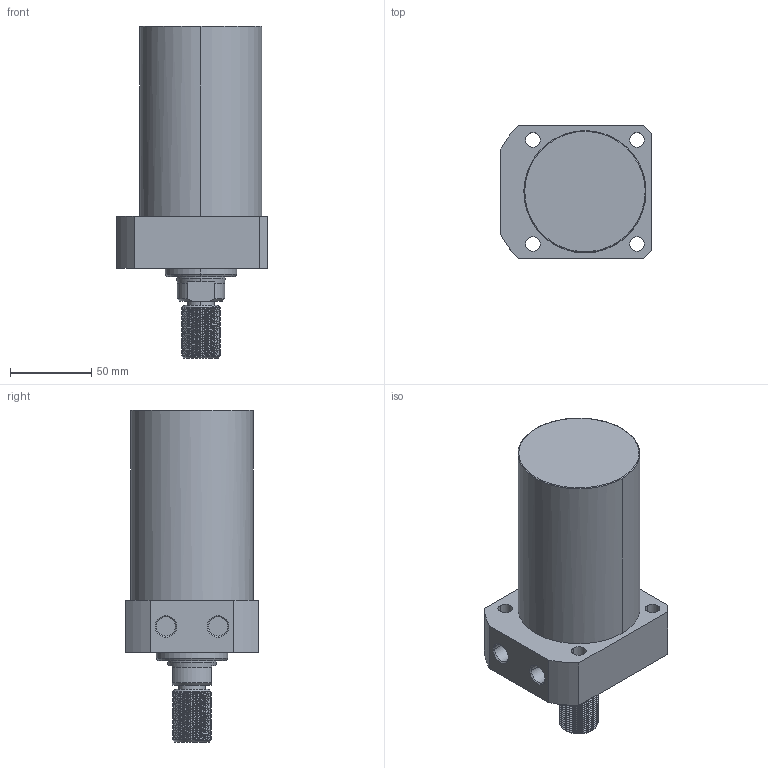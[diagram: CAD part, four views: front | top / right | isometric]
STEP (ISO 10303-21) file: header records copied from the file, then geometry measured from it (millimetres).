
FILE_DESCRIPTION((' '),'2;1');
FILE_NAME( 'TLLR-075CT-080.STEP.stp', '2025-10-24T16:35:10', (' '), ('--- Datakit www.datakit.com---'), ' Datakit CrossCadWare V2024.1 Dec 21 2023', 'Mastercam 2025', ' ');
FILE_SCHEMA(('AUTOMOTIVE_DESIGN { 1 0 10303 214 1 1 1 1 }'));
Length unit declared in the file: millimetre
Products named in the file (1): TLLR-075CT-080
Bounding box: 93 x 82 x 204 mm (x, y, z)
Volume: 773839.4 mm3; surface area: 63701.4 mm2
Topology: 1 solids, 1 shells, 108 faces, 394 edges, 297 vertices
Faces by surface type: cylinder 69, plane 21, cone 14, torus 2, bspline 2
Entity records: 12925 total; most frequent: CARTESIAN_POINT 9582, ORIENTED_EDGE 788, DIRECTION 542, EDGE_CURVE 394, VERTEX_POINT 297, AXIS2_PLACEMENT_3D 219, B_SPLINE_CURVE_WITH_KNOTS 178, EDGE_LOOP 125
